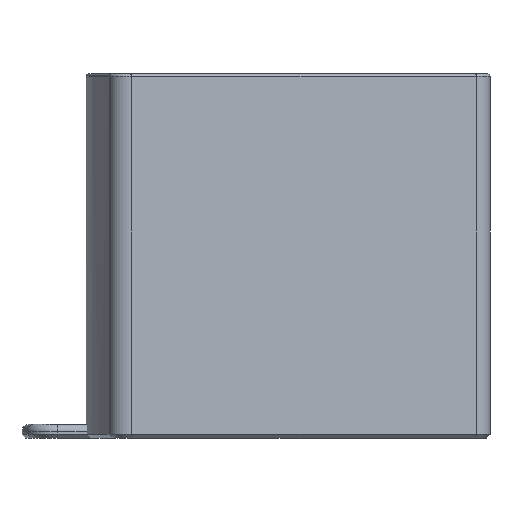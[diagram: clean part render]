
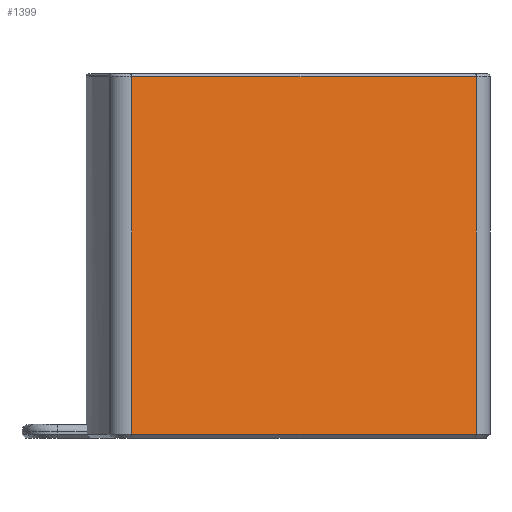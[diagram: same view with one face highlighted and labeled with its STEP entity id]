
A CAD part, left-side view. The second image highlights one B-rep face of the part: STEP entity #1399.
In plain terms, the highlighted planar face has unit normal (-0.966, -0.259, 0).
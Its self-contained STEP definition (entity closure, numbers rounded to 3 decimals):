
#101 = CYLINDRICAL_SURFACE('',#102,2.);
#102 = AXIS2_PLACEMENT_3D('',#103,#104,#105);
#103 = CARTESIAN_POINT('',(-11.379,54.832,1.5));
#104 = DIRECTION('',(0.,0.,1.));
#105 = DIRECTION('',(0.203,-0.979,0.));
#399 = VERTEX_POINT('',#400);
#400 = CARTESIAN_POINT('',(-13.311,54.314,1.9));
#422 = EDGE_CURVE('',#399,#423,#425,.T.);
#423 = VERTEX_POINT('',#424);
#424 = CARTESIAN_POINT('',(-13.311,54.314,41.));
#425 = SURFACE_CURVE('',#426,(#430,#437),.PCURVE_S1.);
#426 = LINE('',#427,#428);
#427 = CARTESIAN_POINT('',(-13.311,54.314,1.5));
#428 = VECTOR('',#429,1.);
#429 = DIRECTION('',(0.,0.,1.));
#430 = PCURVE('',#101,#431);
#431 = DEFINITIONAL_REPRESENTATION('',(#432),#436);
#432 = LINE('',#433,#434);
#433 = CARTESIAN_POINT('',(-1.514,0.));
#434 = VECTOR('',#435,1.);
#435 = DIRECTION('',(0.,1.));
#436 = ( GEOMETRIC_REPRESENTATION_CONTEXT(2) 
PARAMETRIC_REPRESENTATION_CONTEXT() REPRESENTATION_CONTEXT('2D SPACE',''
  ) );
#437 = PCURVE('',#438,#443);
#438 = PLANE('',#439);
#439 = AXIS2_PLACEMENT_3D('',#440,#441,#442);
#440 = CARTESIAN_POINT('',(-12.814,52.458,1.5));
#441 = DIRECTION('',(-0.966,-0.259,0.));
#442 = DIRECTION('',(-0.259,0.966,0.));
#443 = DEFINITIONAL_REPRESENTATION('',(#444),#448);
#444 = LINE('',#445,#446);
#445 = CARTESIAN_POINT('',(1.922,0.));
#446 = VECTOR('',#447,1.);
#447 = DIRECTION('',(0.,-1.));
#448 = ( GEOMETRIC_REPRESENTATION_CONTEXT(2) 
PARAMETRIC_REPRESENTATION_CONTEXT() REPRESENTATION_CONTEXT('2D SPACE',''
  ) );
#700 = PLANE('',#701);
#701 = AXIS2_PLACEMENT_3D('',#702,#703,#704);
#702 = CARTESIAN_POINT('',(-13.118,54.366,1.7));
#703 = DIRECTION('',(-0.683,-0.183,-0.707));
#704 = DIRECTION('',(-0.259,0.966,0.
    ));
#1001 = CYLINDRICAL_SURFACE('',#1002,0.3);
#1002 = AXIS2_PLACEMENT_3D('',#1003,#1004,#1005);
#1003 = CARTESIAN_POINT('',(-13.021,54.392,41.));
#1004 = DIRECTION('',(-0.259,0.966,0.));
#1005 = DIRECTION('',(0.,0.,1.));
#1399 = ADVANCED_FACE('',(#1400),#438,.T.);
#1400 = FACE_BOUND('',#1401,.T.);
#1401 = EDGE_LOOP('',(#1402,#1403,#1426,#1454));
#1402 = ORIENTED_EDGE('',*,*,#422,.T.);
#1403 = ORIENTED_EDGE('',*,*,#1404,.T.);
#1404 = EDGE_CURVE('',#423,#1405,#1407,.T.);
#1405 = VERTEX_POINT('',#1406);
#1406 = CARTESIAN_POINT('',(-23.415,92.021,41.));
#1407 = SURFACE_CURVE('',#1408,(#1412,#1419),.PCURVE_S1.);
#1408 = LINE('',#1409,#1410);
#1409 = CARTESIAN_POINT('',(-13.311,54.314,41.));
#1410 = VECTOR('',#1411,1.);
#1411 = DIRECTION('',(-0.259,0.966,0.));
#1412 = PCURVE('',#438,#1413);
#1413 = DEFINITIONAL_REPRESENTATION('',(#1414),#1418);
#1414 = LINE('',#1415,#1416);
#1415 = CARTESIAN_POINT('',(1.922,-39.5));
#1416 = VECTOR('',#1417,1.);
#1417 = DIRECTION('',(1.,0.));
#1418 = ( GEOMETRIC_REPRESENTATION_CONTEXT(2) 
PARAMETRIC_REPRESENTATION_CONTEXT() REPRESENTATION_CONTEXT('2D SPACE',''
  ) );
#1419 = PCURVE('',#1001,#1420);
#1420 = DEFINITIONAL_REPRESENTATION('',(#1421),#1425);
#1421 = LINE('',#1422,#1423);
#1422 = CARTESIAN_POINT('',(-1.571,0.));
#1423 = VECTOR('',#1424,1.);
#1424 = DIRECTION('',(0.,1.));
#1425 = ( GEOMETRIC_REPRESENTATION_CONTEXT(2) 
PARAMETRIC_REPRESENTATION_CONTEXT() REPRESENTATION_CONTEXT('2D SPACE',''
  ) );
#1426 = ORIENTED_EDGE('',*,*,#1427,.F.);
#1427 = EDGE_CURVE('',#1428,#1405,#1430,.T.);
#1428 = VERTEX_POINT('',#1429);
#1429 = CARTESIAN_POINT('',(-23.415,92.021,1.9));
#1430 = SURFACE_CURVE('',#1431,(#1435,#1442),.PCURVE_S1.);
#1431 = LINE('',#1432,#1433);
#1432 = CARTESIAN_POINT('',(-23.415,92.021,1.5));
#1433 = VECTOR('',#1434,1.);
#1434 = DIRECTION('',(0.,0.,1.));
#1435 = PCURVE('',#438,#1436);
#1436 = DEFINITIONAL_REPRESENTATION('',(#1437),#1441);
#1437 = LINE('',#1438,#1439);
#1438 = CARTESIAN_POINT('',(40.959,0.));
#1439 = VECTOR('',#1440,1.);
#1440 = DIRECTION('',(0.,-1.));
#1441 = ( GEOMETRIC_REPRESENTATION_CONTEXT(2) 
PARAMETRIC_REPRESENTATION_CONTEXT() REPRESENTATION_CONTEXT('2D SPACE',''
  ) );
#1442 = PCURVE('',#1443,#1448);
#1443 = CYLINDRICAL_SURFACE('',#1444,2.);
#1444 = AXIS2_PLACEMENT_3D('',#1445,#1446,#1447);
#1445 = CARTESIAN_POINT('',(-21.483,92.539,1.5));
#1446 = DIRECTION('',(0.,0.,1.));
#1447 = DIRECTION('',(-0.966,-0.259,0.));
#1448 = DEFINITIONAL_REPRESENTATION('',(#1449),#1453);
#1449 = LINE('',#1450,#1451);
#1450 = CARTESIAN_POINT('',(0.,0.));
#1451 = VECTOR('',#1452,1.);
#1452 = DIRECTION('',(0.,1.));
#1453 = ( GEOMETRIC_REPRESENTATION_CONTEXT(2) 
PARAMETRIC_REPRESENTATION_CONTEXT() REPRESENTATION_CONTEXT('2D SPACE',''
  ) );
#1454 = ORIENTED_EDGE('',*,*,#1455,.F.);
#1455 = EDGE_CURVE('',#399,#1428,#1456,.T.);
#1456 = SURFACE_CURVE('',#1457,(#1461,#1468),.PCURVE_S1.);
#1457 = LINE('',#1458,#1459);
#1458 = CARTESIAN_POINT('',(-13.311,54.314,1.9));
#1459 = VECTOR('',#1460,1.);
#1460 = DIRECTION('',(-0.259,0.966,0.));
#1461 = PCURVE('',#438,#1462);
#1462 = DEFINITIONAL_REPRESENTATION('',(#1463),#1467);
#1463 = LINE('',#1464,#1465);
#1464 = CARTESIAN_POINT('',(1.922,-0.4));
#1465 = VECTOR('',#1466,1.);
#1466 = DIRECTION('',(1.,0.));
#1467 = ( GEOMETRIC_REPRESENTATION_CONTEXT(2) 
PARAMETRIC_REPRESENTATION_CONTEXT() REPRESENTATION_CONTEXT('2D SPACE',''
  ) );
#1468 = PCURVE('',#700,#1469);
#1469 = DEFINITIONAL_REPRESENTATION('',(#1470),#1474);
#1470 = LINE('',#1471,#1472);
#1471 = CARTESIAN_POINT('',(0.,-0.283));
#1472 = VECTOR('',#1473,1.);
#1473 = DIRECTION('',(1.,0.));
#1474 = ( GEOMETRIC_REPRESENTATION_CONTEXT(2) 
PARAMETRIC_REPRESENTATION_CONTEXT() REPRESENTATION_CONTEXT('2D SPACE',''
  ) );
